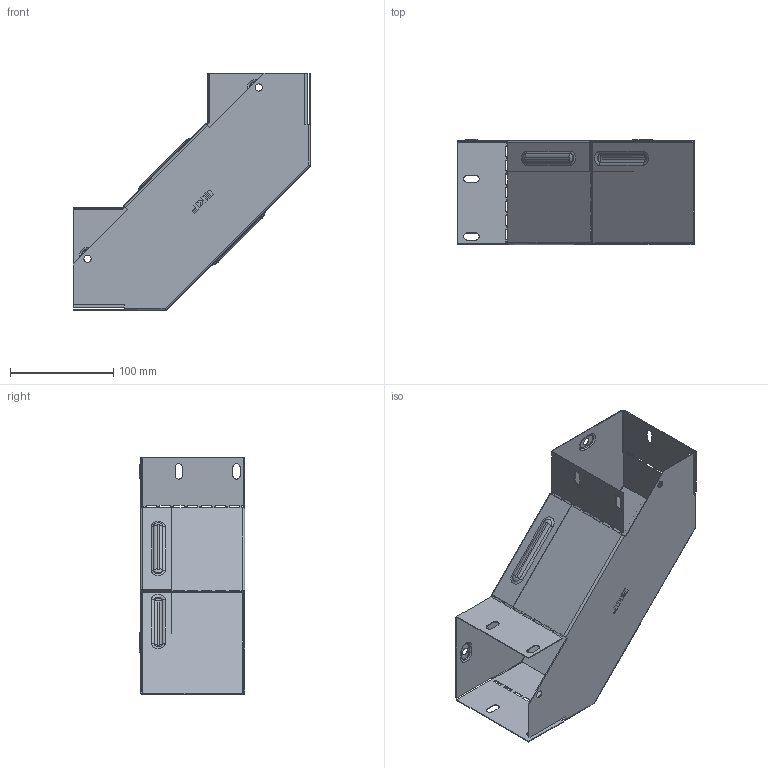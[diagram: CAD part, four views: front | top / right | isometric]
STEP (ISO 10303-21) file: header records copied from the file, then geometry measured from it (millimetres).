
FILE_DESCRIPTION (( 'STEP AP214' ), '1' );
FILE_NAME ('g90100100_捘.STEP', '2019-06-10T09:52:04', ( '砐錪賧瘔蠈錪 Windows' ), ( '' ), 'SwSTEP 2.0', 'SolidWorks 2018', '' );
FILE_SCHEMA (( 'AUTOMOTIVE_DESIGN' ));
Length unit declared in the file: millimetre
Products named in the file (1): g90100100_捘
Bounding box: 230.8 x 102.3 x 230.8 mm (x, y, z)
Volume: 98195.8 mm3; surface area: 248761.8 mm2
Topology: 2 solids, 2 shells, 568 faces, 1624 edges, 1056 vertices
Faces by surface type: plane 356, cylinder 138, torus 48, bspline 26
Entity records: 19833 total; most frequent: CARTESIAN_POINT 4725, ORIENTED_EDGE 3248, DIRECTION 2978, EDGE_CURVE 1624, LINE 1228, VECTOR 1228, VERTEX_POINT 1056, AXIS2_PLACEMENT_3D 875
